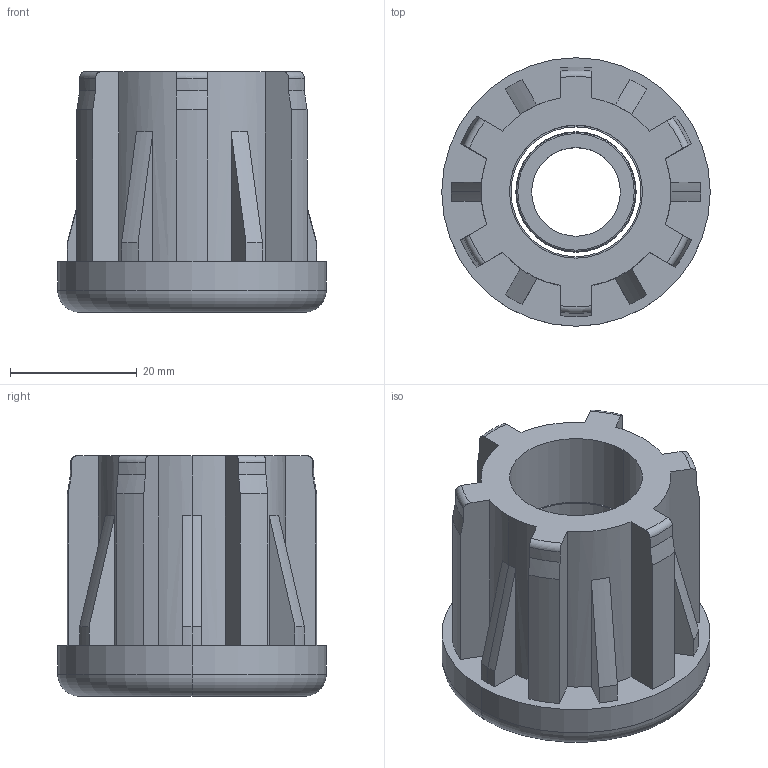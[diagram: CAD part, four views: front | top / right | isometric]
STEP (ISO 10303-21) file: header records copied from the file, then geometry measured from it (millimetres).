
FILE_DESCRIPTION (( 'STEP AP214' ), '1' );
FILE_NAME ('42006438214.STEP', '2020-02-25T17:11:02', ( '' ), ( '' ), 'SwSTEP 2.0', 'SolidWorks 2018', '' );
FILE_SCHEMA (( 'AUTOMOTIVE_DESIGN' ));
Length unit declared in the file: millimetre
Products named in the file (4): 42006438214; BC_M14.stp; Component1.stp; 42006438214.stp
Assembly tree (3 placements, depth 3):
  42006438214
    42006438214.stp
      Component1.stp
      BC_M14.stp
Bounding box: 42.4 x 42.4 x 38 mm (x, y, z)
Volume: 23926.6 mm3; surface area: 12570.7 mm2
Topology: 2 solids, 2 shells, 111 faces, 288 edges, 184 vertices
Faces by surface type: cylinder 44, plane 31, cone 22, torus 14
Entity records: 3668 total; most frequent: CARTESIAN_POINT 788, DIRECTION 602, ORIENTED_EDGE 576, EDGE_CURVE 288, AXIS2_PLACEMENT_3D 238, VERTEX_POINT 184, VECTOR 126, LINE 126
